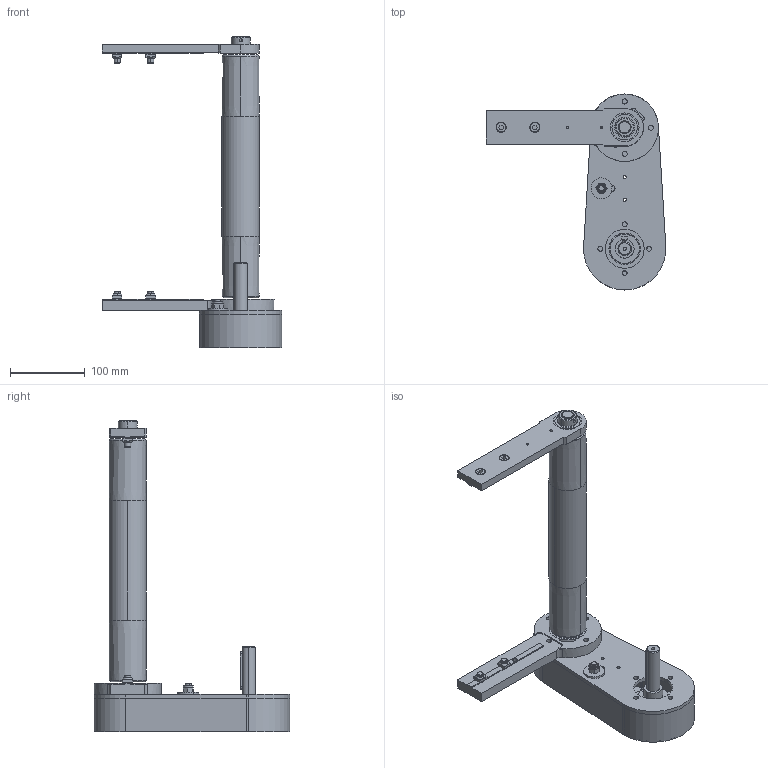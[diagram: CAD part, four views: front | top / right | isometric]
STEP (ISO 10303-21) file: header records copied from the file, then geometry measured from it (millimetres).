
FILE_DESCRIPTION (( 'STEP AP203' ), '1' );
FILE_NAME ('084.050.KTB.44.300.STEP', '2014-10-23T10:04:48', ( '' ), ( '' ), 'SwSTEP 2.0', 'SolidWorks 2012', '' );
FILE_SCHEMA (( 'CONFIG_CONTROL_DESIGN' ));
Length unit declared in the file: millimetre
Products named in the file (1): 084.050.KTB.44.300
Bounding box: 240 x 261.5 x 416 mm (x, y, z)
Surface area: 278361.1 mm2 (no closed solid volume)
Topology: 0 solids, 35 shells, 327 faces, 1271 edges, 969 vertices
Faces by surface type: plane 165, cylinder 109, cone 27, torus 22, sphere 4
Entity records: 14075 total; most frequent: CARTESIAN_POINT 3173, DIRECTION 2355, ORIENTED_EDGE 1928, EDGE_CURVE 1261, VERTEX_POINT 963, AXIS2_PLACEMENT_3D 820, VECTOR 715, LINE 715
